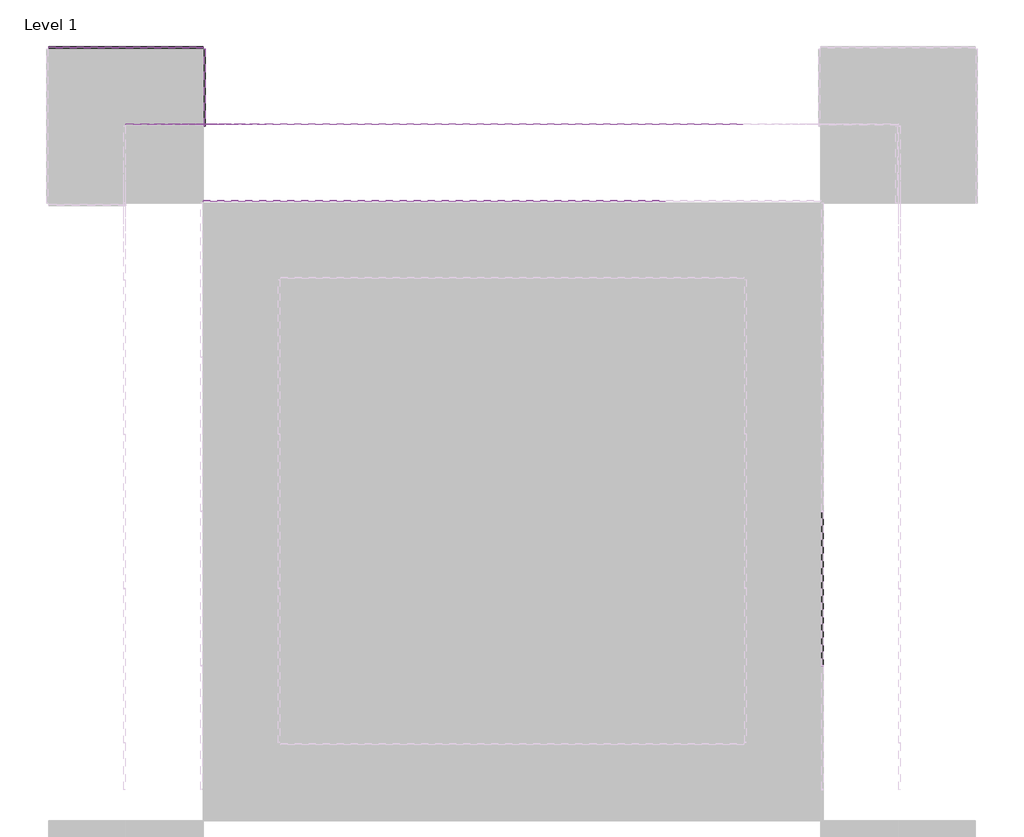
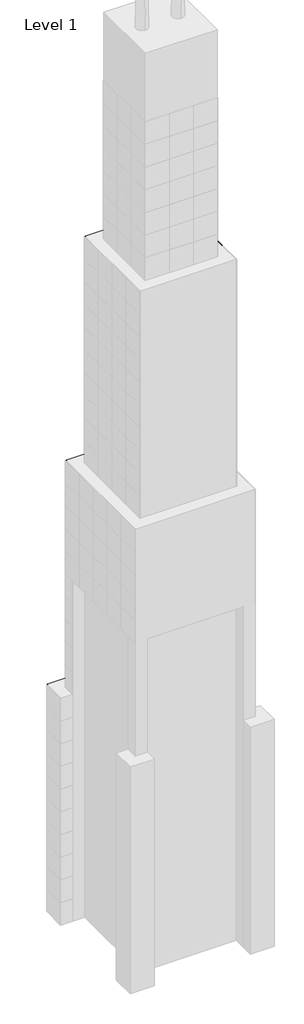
# One storey, part 13 of 15: 138 plates.
"""IFC4 building model written with IfcOpenShell, lengths in millimetres."""

from ifc_helpers import new_model, si_unit, origin, place, context, project, spatial, transform, mapped, element, save
from components import system_panel_glazed_9c75bc08, system_panel_glazed_0a0842ec, system_panel_glazed_aa64d645, system_panel_glazed_b248394d

model = new_model("IFC4")

# Units and contexts
model_context = context("Model", 3, world=origin())
ifc_project = project(units=[si_unit("LENGTHUNIT", "METRE", prefix="MILLI")], contexts=[model_context])

# Site, building, storey
site = spatial("IfcSite", under=ifc_project)
building = spatial("IfcBuilding", under=site)
storey = spatial("IfcBuildingStorey", under=building, Name="Level 1", Elevation=0.0)

# Plates
placement = place(None, origin())
system_panel_glazed_shape = system_panel_glazed_9c75bc08(model_context)
element("IfcPlate", 1, ObjectType="System Panel : Glazed", at=placement, inside=storey, context=model_context, shape_type="MappedRepresentation", body=[
    mapped(system_panel_glazed_shape, transform((38118.2903978, 10637.0904402, 0.0), x_axis=(0.0, 1.0, 0.0), y_axis=(-1.0, 0.0, 0.0), z_axis=(0.0, 0.0, 1.0))),
])
element("IfcPlate", 2, ObjectType="System Panel : Glazed", at=placement, inside=storey, context=model_context, shape_type="MappedRepresentation", body=[
    mapped(system_panel_glazed_shape, transform((38118.2903978, 10637.0904402, 3048.0), x_axis=(0.0, 1.0, 0.0), y_axis=(-1.0, 0.0, 0.0), z_axis=(0.0, 0.0, 1.0))),
])
element("IfcPlate", 3, ObjectType="System Panel : Glazed", at=placement, inside=storey, context=model_context, shape_type="MappedRepresentation", body=[
    mapped(system_panel_glazed_shape, transform((38118.2903978, 10637.0904402, 6096.0), x_axis=(0.0, 1.0, 0.0), y_axis=(-1.0, 0.0, 0.0), z_axis=(0.0, 0.0, 1.0))),
])
element("IfcPlate", 4, ObjectType="System Panel : Glazed", at=placement, inside=storey, context=model_context, shape_type="MappedRepresentation", body=[
    mapped(system_panel_glazed_shape, transform((38118.2903978, 10637.0904402, 9144.0), x_axis=(0.0, 1.0, 0.0), y_axis=(-1.0, 0.0, 0.0), z_axis=(0.0, 0.0, 1.0))),
])
element("IfcPlate", 5, ObjectType="System Panel : Glazed", at=placement, inside=storey, context=model_context, shape_type="MappedRepresentation", body=[
    mapped(system_panel_glazed_shape, transform((38118.2903978, 10637.0904402, 12192.0), x_axis=(0.0, 1.0, 0.0), y_axis=(-1.0, 0.0, 0.0), z_axis=(0.0, 0.0, 1.0))),
])
element("IfcPlate", 6, ObjectType="System Panel : Glazed", at=placement, inside=storey, context=model_context, shape_type="MappedRepresentation", body=[
    mapped(system_panel_glazed_shape, transform((38118.2903978, 10637.0904402, 15240.0), x_axis=(0.0, 1.0, 0.0), y_axis=(-1.0, 0.0, 0.0), z_axis=(0.0, 0.0, 1.0))),
])
element("IfcPlate", 7, ObjectType="System Panel : Glazed", at=placement, inside=storey, context=model_context, shape_type="MappedRepresentation", body=[
    mapped(system_panel_glazed_shape, transform((38118.2903978, 10637.0904402, 18288.0), x_axis=(0.0, 1.0, 0.0), y_axis=(-1.0, 0.0, 0.0), z_axis=(0.0, 0.0, 1.0))),
])
element("IfcPlate", 8, ObjectType="System Panel : Glazed", at=placement, inside=storey, context=model_context, shape_type="MappedRepresentation", body=[
    mapped(system_panel_glazed_shape, transform((38118.2903978, 10637.0904402, 21336.0), x_axis=(0.0, 1.0, 0.0), y_axis=(-1.0, 0.0, 0.0), z_axis=(0.0, 0.0, 1.0))),
])
element("IfcPlate", 9, ObjectType="System Panel : Glazed", at=placement, inside=storey, context=model_context, shape_type="MappedRepresentation", body=[
    mapped(system_panel_glazed_shape, transform((38118.2903978, 10637.0904402, 24384.0), x_axis=(0.0, 1.0, 0.0), y_axis=(-1.0, 0.0, 0.0), z_axis=(0.0, 0.0, 1.0))),
])
element("IfcPlate", 10, ObjectType="System Panel : Glazed", at=placement, inside=storey, context=model_context, shape_type="MappedRepresentation", body=[
    mapped(system_panel_glazed_shape, transform((38118.2903978, 10637.0904402, 27432.0), x_axis=(0.0, 1.0, 0.0), y_axis=(-1.0, 0.0, 0.0), z_axis=(0.0, 0.0, 1.0))),
])
system_panel_glazed_2_shape = system_panel_glazed_0a0842ec(model_context)
element("IfcPlate", 11, ObjectType="System Panel : Glazed", at=placement, inside=storey, context=model_context, shape_type="MappedRepresentation", body=[
    mapped(system_panel_glazed_2_shape, transform((38118.2903978, 9875.0904402, 45720.0), x_axis=(-1.0, 0.0, 0.0), y_axis=(0.0, -1.0, 0.0), z_axis=(0.0, 0.0, 1.0))),
])
element("IfcPlate", 12, ObjectType="System Panel : Glazed", at=placement, inside=storey, context=model_context, shape_type="MappedRepresentation", body=[
    mapped(system_panel_glazed_2_shape, transform((38118.2903978, 9875.0904402, 45720.0), x_axis=(-1.0, 0.0, 0.0), y_axis=(0.0, -1.0, 0.0), z_axis=(0.0, 0.0, 1.0))),
])
element("IfcPlate", 13, ObjectType="System Panel : Glazed", at=placement, inside=storey, context=model_context, shape_type="MappedRepresentation", body=[
    mapped(system_panel_glazed_2_shape, transform((38118.2903978, 9875.0904402, 45720.0), x_axis=(-1.0, 0.0, 0.0), y_axis=(0.0, -1.0, 0.0), z_axis=(0.0, 0.0, 1.0))),
])
system_panel_glazed_3_shape = system_panel_glazed_aa64d645(model_context)
element("IfcPlate", 14, ObjectType="System Panel : Glazed", at=placement, inside=storey, context=model_context, shape_type="MappedRepresentation", body=[
    mapped(system_panel_glazed_3_shape, transform((47262.2903978, 9875.0904402, 45720.0), x_axis=(-1.0, 0.0, 0.0), y_axis=(0.0, -1.0, 0.0), z_axis=(0.0, 0.0, 1.0))),
])
element("IfcPlate", 15, ObjectType="System Panel : Glazed", at=placement, inside=storey, context=model_context, shape_type="MappedRepresentation", body=[
    mapped(system_panel_glazed_3_shape, transform((44214.2903978, 9875.0904402, 45720.0), x_axis=(-1.0, 0.0, 0.0), y_axis=(0.0, -1.0, 0.0), z_axis=(0.0, 0.0, 1.0))),
])
element("IfcPlate", 16, ObjectType="System Panel : Glazed", at=placement, inside=storey, context=model_context, shape_type="MappedRepresentation", body=[
    mapped(system_panel_glazed_3_shape, transform((41166.2903978, 9875.0904402, 45720.0), x_axis=(-1.0, 0.0, 0.0), y_axis=(0.0, -1.0, 0.0), z_axis=(0.0, 0.0, 1.0))),
])
element("IfcPlate", 17, ObjectType="System Panel : Glazed", at=placement, inside=storey, context=model_context, shape_type="MappedRepresentation", body=[
    mapped(system_panel_glazed_3_shape, transform((47262.2903978, 9875.0904402, 48768.0), x_axis=(-1.0, 0.0, 0.0), y_axis=(0.0, -1.0, 0.0), z_axis=(0.0, 0.0, 1.0))),
])
element("IfcPlate", 18, ObjectType="System Panel : Glazed", at=placement, inside=storey, context=model_context, shape_type="MappedRepresentation", body=[
    mapped(system_panel_glazed_3_shape, transform((44214.2903978, 9875.0904402, 48768.0), x_axis=(-1.0, 0.0, 0.0), y_axis=(0.0, -1.0, 0.0), z_axis=(0.0, 0.0, 1.0))),
])
element("IfcPlate", 19, ObjectType="System Panel : Glazed", at=placement, inside=storey, context=model_context, shape_type="MappedRepresentation", body=[
    mapped(system_panel_glazed_3_shape, transform((41166.2903978, 9875.0904402, 48768.0), x_axis=(-1.0, 0.0, 0.0), y_axis=(0.0, -1.0, 0.0), z_axis=(0.0, 0.0, 1.0))),
])
element("IfcPlate", 20, ObjectType="System Panel : Glazed", at=placement, inside=storey, context=model_context, shape_type="MappedRepresentation", body=[
    mapped(system_panel_glazed_3_shape, transform((38118.2903978, 9875.0904402, 48768.0), x_axis=(-1.0, 0.0, 0.0), y_axis=(0.0, -1.0, 0.0), z_axis=(0.0, 0.0, 1.0))),
])
element("IfcPlate", 21, ObjectType="System Panel : Glazed", at=placement, inside=storey, context=model_context, shape_type="MappedRepresentation", body=[
    mapped(system_panel_glazed_3_shape, transform((47262.2903978, 9875.0904402, 51816.0), x_axis=(-1.0, 0.0, 0.0), y_axis=(0.0, -1.0, 0.0), z_axis=(0.0, 0.0, 1.0))),
])
element("IfcPlate", 22, ObjectType="System Panel : Glazed", at=placement, inside=storey, context=model_context, shape_type="MappedRepresentation", body=[
    mapped(system_panel_glazed_3_shape, transform((44214.2903978, 9875.0904402, 51816.0), x_axis=(-1.0, 0.0, 0.0), y_axis=(0.0, -1.0, 0.0), z_axis=(0.0, 0.0, 1.0))),
])
element("IfcPlate", 23, ObjectType="System Panel : Glazed", at=placement, inside=storey, context=model_context, shape_type="MappedRepresentation", body=[
    mapped(system_panel_glazed_3_shape, transform((41166.2903978, 9875.0904402, 51816.0), x_axis=(-1.0, 0.0, 0.0), y_axis=(0.0, -1.0, 0.0), z_axis=(0.0, 0.0, 1.0))),
])
element("IfcPlate", 24, ObjectType="System Panel : Glazed", at=placement, inside=storey, context=model_context, shape_type="MappedRepresentation", body=[
    mapped(system_panel_glazed_3_shape, transform((38118.2903978, 9875.0904402, 51816.0), x_axis=(-1.0, 0.0, 0.0), y_axis=(0.0, -1.0, 0.0), z_axis=(0.0, 0.0, 1.0))),
])
element("IfcPlate", 25, ObjectType="System Panel : Glazed", at=placement, inside=storey, context=model_context, shape_type="MappedRepresentation", body=[
    mapped(system_panel_glazed_3_shape, transform((47262.2903978, 9875.0904402, 54864.0), x_axis=(-1.0, 0.0, 0.0), y_axis=(0.0, -1.0, 0.0), z_axis=(0.0, 0.0, 1.0))),
])
element("IfcPlate", 26, ObjectType="System Panel : Glazed", at=placement, inside=storey, context=model_context, shape_type="MappedRepresentation", body=[
    mapped(system_panel_glazed_3_shape, transform((44214.2903978, 9875.0904402, 54864.0), x_axis=(-1.0, 0.0, 0.0), y_axis=(0.0, -1.0, 0.0), z_axis=(0.0, 0.0, 1.0))),
])
element("IfcPlate", 27, ObjectType="System Panel : Glazed", at=placement, inside=storey, context=model_context, shape_type="MappedRepresentation", body=[
    mapped(system_panel_glazed_3_shape, transform((41166.2903978, 9875.0904402, 54864.0), x_axis=(-1.0, 0.0, 0.0), y_axis=(0.0, -1.0, 0.0), z_axis=(0.0, 0.0, 1.0))),
])
element("IfcPlate", 28, ObjectType="System Panel : Glazed", at=placement, inside=storey, context=model_context, shape_type="MappedRepresentation", body=[
    mapped(system_panel_glazed_3_shape, transform((38118.2903978, 9875.0904402, 54864.0), x_axis=(-1.0, 0.0, 0.0), y_axis=(0.0, -1.0, 0.0), z_axis=(0.0, 0.0, 1.0))),
])
element("IfcPlate", 29, ObjectType="System Panel : Glazed", at=placement, inside=storey, context=model_context, shape_type="MappedRepresentation", body=[
    mapped(system_panel_glazed_3_shape, transform((47262.2903978, 9875.0904402, 57912.0), x_axis=(-1.0, 0.0, 0.0), y_axis=(0.0, -1.0, 0.0), z_axis=(0.0, 0.0, 1.0))),
])
element("IfcPlate", 30, ObjectType="System Panel : Glazed", at=placement, inside=storey, context=model_context, shape_type="MappedRepresentation", body=[
    mapped(system_panel_glazed_3_shape, transform((44214.2903978, 9875.0904402, 57912.0), x_axis=(-1.0, 0.0, 0.0), y_axis=(0.0, -1.0, 0.0), z_axis=(0.0, 0.0, 1.0))),
])
element("IfcPlate", 31, ObjectType="System Panel : Glazed", at=placement, inside=storey, context=model_context, shape_type="MappedRepresentation", body=[
    mapped(system_panel_glazed_3_shape, transform((41166.2903978, 9875.0904402, 57912.0), x_axis=(-1.0, 0.0, 0.0), y_axis=(0.0, -1.0, 0.0), z_axis=(0.0, 0.0, 1.0))),
])
element("IfcPlate", 32, ObjectType="System Panel : Glazed", at=placement, inside=storey, context=model_context, shape_type="MappedRepresentation", body=[
    mapped(system_panel_glazed_3_shape, transform((38118.2903978, 9875.0904402, 57912.0), x_axis=(-1.0, 0.0, 0.0), y_axis=(0.0, -1.0, 0.0), z_axis=(0.0, 0.0, 1.0))),
])
element("IfcPlate", 33, ObjectType="System Panel : Glazed", at=placement, inside=storey, context=model_context, shape_type="MappedRepresentation", body=[
    mapped(system_panel_glazed_3_shape, transform((50310.2903978, 731.0904402, 60960.0), x_axis=(0.0, 1.0, 0.0), y_axis=(-1.0, 0.0, 0.0), z_axis=(0.0, 0.0, 1.0))),
])
element("IfcPlate", 34, ObjectType="System Panel : Glazed", at=placement, inside=storey, context=model_context, shape_type="MappedRepresentation", body=[
    mapped(system_panel_glazed_3_shape, transform((50310.2903978, 731.0904402, 64008.0), x_axis=(0.0, 1.0, 0.0), y_axis=(-1.0, 0.0, 0.0), z_axis=(0.0, 0.0, 1.0))),
])
element("IfcPlate", 35, ObjectType="System Panel : Glazed", at=placement, inside=storey, context=model_context, shape_type="MappedRepresentation", body=[
    mapped(system_panel_glazed_3_shape, transform((50310.2903978, 731.0904402, 67056.0), x_axis=(0.0, 1.0, 0.0), y_axis=(-1.0, 0.0, 0.0), z_axis=(0.0, 0.0, 1.0))),
])
element("IfcPlate", 36, ObjectType="System Panel : Glazed", at=placement, inside=storey, context=model_context, shape_type="MappedRepresentation", body=[
    mapped(system_panel_glazed_3_shape, transform((50310.2903978, 731.0904402, 70104.0), x_axis=(0.0, 1.0, 0.0), y_axis=(-1.0, 0.0, 0.0), z_axis=(0.0, 0.0, 1.0))),
])
element("IfcPlate", 37, ObjectType="System Panel : Glazed", at=placement, inside=storey, context=model_context, shape_type="MappedRepresentation", body=[
    mapped(system_panel_glazed_3_shape, transform((50310.2903978, 731.0904402, 73152.0), x_axis=(0.0, 1.0, 0.0), y_axis=(-1.0, 0.0, 0.0), z_axis=(0.0, 0.0, 1.0))),
])
element("IfcPlate", 38, ObjectType="System Panel : Glazed", at=placement, inside=storey, context=model_context, shape_type="MappedRepresentation", body=[
    mapped(system_panel_glazed_3_shape, transform((50310.2903978, 731.0904402, 76200.0), x_axis=(0.0, 1.0, 0.0), y_axis=(-1.0, 0.0, 0.0), z_axis=(0.0, 0.0, 1.0))),
])
element("IfcPlate", 39, ObjectType="System Panel : Glazed", at=placement, inside=storey, context=model_context, shape_type="MappedRepresentation", body=[
    mapped(system_panel_glazed_3_shape, transform((50310.2903978, 731.0904402, 79248.0), x_axis=(0.0, 1.0, 0.0), y_axis=(-1.0, 0.0, 0.0), z_axis=(0.0, 0.0, 1.0))),
])
element("IfcPlate", 40, ObjectType="System Panel : Glazed", at=placement, inside=storey, context=model_context, shape_type="MappedRepresentation", body=[
    mapped(system_panel_glazed_3_shape, transform((50310.2903978, 731.0904402, 82296.0), x_axis=(0.0, 1.0, 0.0), y_axis=(-1.0, 0.0, 0.0), z_axis=(0.0, 0.0, 1.0))),
])
element("IfcPlate", 41, ObjectType="System Panel : Glazed", at=placement, inside=storey, context=model_context, shape_type="MappedRepresentation", body=[
    mapped(system_panel_glazed_3_shape, transform((50310.2903978, 731.0904402, 85344.0), x_axis=(0.0, 1.0, 0.0), y_axis=(-1.0, 0.0, 0.0), z_axis=(0.0, 0.0, 1.0))),
])
element("IfcPlate", 42, ObjectType="System Panel : Glazed", at=placement, inside=storey, context=model_context, shape_type="MappedRepresentation", body=[
    mapped(system_panel_glazed_3_shape, transform((50310.2903978, 731.0904402, 88392.0), x_axis=(0.0, 1.0, 0.0), y_axis=(-1.0, 0.0, 0.0), z_axis=(0.0, 0.0, 1.0))),
])
element("IfcPlate", 43, ObjectType="System Panel : Glazed", at=placement, inside=storey, context=model_context, shape_type="MappedRepresentation", body=[
    mapped(system_panel_glazed_3_shape, transform((45738.2903978, 8351.0904402, 60960.0), x_axis=(-1.0, 0.0, 0.0), y_axis=(0.0, -1.0, 0.0), z_axis=(0.0, 0.0, 1.0))),
])
element("IfcPlate", 44, ObjectType="System Panel : Glazed", at=placement, inside=storey, context=model_context, shape_type="MappedRepresentation", body=[
    mapped(system_panel_glazed_3_shape, transform((42690.2903978, 8351.0904402, 60960.0), x_axis=(-1.0, 0.0, 0.0), y_axis=(0.0, -1.0, 0.0), z_axis=(0.0, 0.0, 1.0))),
])
element("IfcPlate", 45, ObjectType="System Panel : Glazed", at=placement, inside=storey, context=model_context, shape_type="MappedRepresentation", body=[
    mapped(system_panel_glazed_3_shape, transform((45738.2903978, 8351.0904402, 64008.0), x_axis=(-1.0, 0.0, 0.0), y_axis=(0.0, -1.0, 0.0), z_axis=(0.0, 0.0, 1.0))),
])
element("IfcPlate", 46, ObjectType="System Panel : Glazed", at=placement, inside=storey, context=model_context, shape_type="MappedRepresentation", body=[
    mapped(system_panel_glazed_3_shape, transform((42690.2903978, 8351.0904402, 64008.0), x_axis=(-1.0, 0.0, 0.0), y_axis=(0.0, -1.0, 0.0), z_axis=(0.0, 0.0, 1.0))),
])
element("IfcPlate", 47, ObjectType="System Panel : Glazed", at=placement, inside=storey, context=model_context, shape_type="MappedRepresentation", body=[
    mapped(system_panel_glazed_3_shape, transform((45738.2903978, 8351.0904402, 67056.0), x_axis=(-1.0, 0.0, 0.0), y_axis=(0.0, -1.0, 0.0), z_axis=(0.0, 0.0, 1.0))),
])
element("IfcPlate", 48, ObjectType="System Panel : Glazed", at=placement, inside=storey, context=model_context, shape_type="MappedRepresentation", body=[
    mapped(system_panel_glazed_3_shape, transform((42690.2903978, 8351.0904402, 67056.0), x_axis=(-1.0, 0.0, 0.0), y_axis=(0.0, -1.0, 0.0), z_axis=(0.0, 0.0, 1.0))),
])
element("IfcPlate", 49, ObjectType="System Panel : Glazed", at=placement, inside=storey, context=model_context, shape_type="MappedRepresentation", body=[
    mapped(system_panel_glazed_3_shape, transform((45738.2903978, 8351.0904402, 70104.0), x_axis=(-1.0, 0.0, 0.0), y_axis=(0.0, -1.0, 0.0), z_axis=(0.0, 0.0, 1.0))),
])
element("IfcPlate", 50, ObjectType="System Panel : Glazed", at=placement, inside=storey, context=model_context, shape_type="MappedRepresentation", body=[
    mapped(system_panel_glazed_3_shape, transform((42690.2903978, 8351.0904402, 70104.0), x_axis=(-1.0, 0.0, 0.0), y_axis=(0.0, -1.0, 0.0), z_axis=(0.0, 0.0, 1.0))),
])
element("IfcPlate", 51, ObjectType="System Panel : Glazed", at=placement, inside=storey, context=model_context, shape_type="MappedRepresentation", body=[
    mapped(system_panel_glazed_3_shape, transform((45738.2903978, 8351.0904402, 73152.0), x_axis=(-1.0, 0.0, 0.0), y_axis=(0.0, -1.0, 0.0), z_axis=(0.0, 0.0, 1.0))),
])
element("IfcPlate", 52, ObjectType="System Panel : Glazed", at=placement, inside=storey, context=model_context, shape_type="MappedRepresentation", body=[
    mapped(system_panel_glazed_3_shape, transform((42690.2903978, 8351.0904402, 73152.0), x_axis=(-1.0, 0.0, 0.0), y_axis=(0.0, -1.0, 0.0), z_axis=(0.0, 0.0, 1.0))),
])
element("IfcPlate", 53, ObjectType="System Panel : Glazed", at=placement, inside=storey, context=model_context, shape_type="MappedRepresentation", body=[
    mapped(system_panel_glazed_3_shape, transform((45738.2903978, 8351.0904402, 76200.0), x_axis=(-1.0, 0.0, 0.0), y_axis=(0.0, -1.0, 0.0), z_axis=(0.0, 0.0, 1.0))),
])
element("IfcPlate", 54, ObjectType="System Panel : Glazed", at=placement, inside=storey, context=model_context, shape_type="MappedRepresentation", body=[
    mapped(system_panel_glazed_3_shape, transform((42690.2903978, 8351.0904402, 76200.0), x_axis=(-1.0, 0.0, 0.0), y_axis=(0.0, -1.0, 0.0), z_axis=(0.0, 0.0, 1.0))),
])
element("IfcPlate", 55, ObjectType="System Panel : Glazed", at=placement, inside=storey, context=model_context, shape_type="MappedRepresentation", body=[
    mapped(system_panel_glazed_3_shape, transform((45738.2903978, 8351.0904402, 79248.0), x_axis=(-1.0, 0.0, 0.0), y_axis=(0.0, -1.0, 0.0), z_axis=(0.0, 0.0, 1.0))),
])
element("IfcPlate", 56, ObjectType="System Panel : Glazed", at=placement, inside=storey, context=model_context, shape_type="MappedRepresentation", body=[
    mapped(system_panel_glazed_3_shape, transform((42690.2903978, 8351.0904402, 79248.0), x_axis=(-1.0, 0.0, 0.0), y_axis=(0.0, -1.0, 0.0), z_axis=(0.0, 0.0, 1.0))),
])
element("IfcPlate", 57, ObjectType="System Panel : Glazed", at=placement, inside=storey, context=model_context, shape_type="MappedRepresentation", body=[
    mapped(system_panel_glazed_3_shape, transform((39642.2903978, 8351.0904402, 79248.0), x_axis=(-1.0, 0.0, 0.0), y_axis=(0.0, -1.0, 0.0), z_axis=(0.0, 0.0, 1.0))),
])
element("IfcPlate", 58, ObjectType="System Panel : Glazed", at=placement, inside=storey, context=model_context, shape_type="MappedRepresentation", body=[
    mapped(system_panel_glazed_3_shape, transform((45738.2903978, 8351.0904402, 82296.0), x_axis=(-1.0, 0.0, 0.0), y_axis=(0.0, -1.0, 0.0), z_axis=(0.0, 0.0, 1.0))),
])
element("IfcPlate", 59, ObjectType="System Panel : Glazed", at=placement, inside=storey, context=model_context, shape_type="MappedRepresentation", body=[
    mapped(system_panel_glazed_3_shape, transform((42690.2903978, 8351.0904402, 82296.0), x_axis=(-1.0, 0.0, 0.0), y_axis=(0.0, -1.0, 0.0), z_axis=(0.0, 0.0, 1.0))),
])
element("IfcPlate", 60, ObjectType="System Panel : Glazed", at=placement, inside=storey, context=model_context, shape_type="MappedRepresentation", body=[
    mapped(system_panel_glazed_3_shape, transform((39642.2903978, 8351.0904402, 82296.0), x_axis=(-1.0, 0.0, 0.0), y_axis=(0.0, -1.0, 0.0), z_axis=(0.0, 0.0, 1.0))),
])
element("IfcPlate", 61, ObjectType="System Panel : Glazed", at=placement, inside=storey, context=model_context, shape_type="MappedRepresentation", body=[
    mapped(system_panel_glazed_3_shape, transform((45738.2903978, 8351.0904402, 85344.0), x_axis=(-1.0, 0.0, 0.0), y_axis=(0.0, -1.0, 0.0), z_axis=(0.0, 0.0, 1.0))),
])
element("IfcPlate", 62, ObjectType="System Panel : Glazed", at=placement, inside=storey, context=model_context, shape_type="MappedRepresentation", body=[
    mapped(system_panel_glazed_3_shape, transform((42690.2903978, 8351.0904402, 85344.0), x_axis=(-1.0, 0.0, 0.0), y_axis=(0.0, -1.0, 0.0), z_axis=(0.0, 0.0, 1.0))),
])
element("IfcPlate", 63, ObjectType="System Panel : Glazed", at=placement, inside=storey, context=model_context, shape_type="MappedRepresentation", body=[
    mapped(system_panel_glazed_3_shape, transform((39642.2903978, 8351.0904402, 85344.0), x_axis=(-1.0, 0.0, 0.0), y_axis=(0.0, -1.0, 0.0), z_axis=(0.0, 0.0, 1.0))),
])
element("IfcPlate", 64, ObjectType="System Panel : Glazed", at=placement, inside=storey, context=model_context, shape_type="MappedRepresentation", body=[
    mapped(system_panel_glazed_3_shape, transform((45738.2903978, 8351.0904402, 88392.0), x_axis=(-1.0, 0.0, 0.0), y_axis=(0.0, -1.0, 0.0), z_axis=(0.0, 0.0, 1.0))),
])
element("IfcPlate", 65, ObjectType="System Panel : Glazed", at=placement, inside=storey, context=model_context, shape_type="MappedRepresentation", body=[
    mapped(system_panel_glazed_3_shape, transform((42690.2903978, 8351.0904402, 88392.0), x_axis=(-1.0, 0.0, 0.0), y_axis=(0.0, -1.0, 0.0), z_axis=(0.0, 0.0, 1.0))),
])
element("IfcPlate", 66, ObjectType="System Panel : Glazed", at=placement, inside=storey, context=model_context, shape_type="MappedRepresentation", body=[
    mapped(system_panel_glazed_3_shape, transform((39642.2903978, 8351.0904402, 88392.0), x_axis=(-1.0, 0.0, 0.0), y_axis=(0.0, -1.0, 0.0), z_axis=(0.0, 0.0, 1.0))),
])
element("IfcPlate", 67, ObjectType="System Panel : Glazed", at=placement, inside=storey, context=model_context, shape_type="MappedRepresentation", body=[
    mapped(system_panel_glazed_3_shape, transform((47262.2903978, 9875.0904402, 45720.0), x_axis=(-1.0, 0.0, 0.0), y_axis=(0.0, -1.0, 0.0), z_axis=(0.0, 0.0, 1.0))),
])
element("IfcPlate", 68, ObjectType="System Panel : Glazed", at=placement, inside=storey, context=model_context, shape_type="MappedRepresentation", body=[
    mapped(system_panel_glazed_3_shape, transform((44214.2903978, 9875.0904402, 45720.0), x_axis=(-1.0, 0.0, 0.0), y_axis=(0.0, -1.0, 0.0), z_axis=(0.0, 0.0, 1.0))),
])
element("IfcPlate", 69, ObjectType="System Panel : Glazed", at=placement, inside=storey, context=model_context, shape_type="MappedRepresentation", body=[
    mapped(system_panel_glazed_3_shape, transform((41166.2903978, 9875.0904402, 45720.0), x_axis=(-1.0, 0.0, 0.0), y_axis=(0.0, -1.0, 0.0), z_axis=(0.0, 0.0, 1.0))),
])
element("IfcPlate", 70, ObjectType="System Panel : Glazed", at=placement, inside=storey, context=model_context, shape_type="MappedRepresentation", body=[
    mapped(system_panel_glazed_3_shape, transform((47262.2903978, 9875.0904402, 48768.0), x_axis=(-1.0, 0.0, 0.0), y_axis=(0.0, -1.0, 0.0), z_axis=(0.0, 0.0, 1.0))),
])
element("IfcPlate", 71, ObjectType="System Panel : Glazed", at=placement, inside=storey, context=model_context, shape_type="MappedRepresentation", body=[
    mapped(system_panel_glazed_3_shape, transform((44214.2903978, 9875.0904402, 48768.0), x_axis=(-1.0, 0.0, 0.0), y_axis=(0.0, -1.0, 0.0), z_axis=(0.0, 0.0, 1.0))),
])
element("IfcPlate", 72, ObjectType="System Panel : Glazed", at=placement, inside=storey, context=model_context, shape_type="MappedRepresentation", body=[
    mapped(system_panel_glazed_3_shape, transform((41166.2903978, 9875.0904402, 48768.0), x_axis=(-1.0, 0.0, 0.0), y_axis=(0.0, -1.0, 0.0), z_axis=(0.0, 0.0, 1.0))),
])
element("IfcPlate", 73, ObjectType="System Panel : Glazed", at=placement, inside=storey, context=model_context, shape_type="MappedRepresentation", body=[
    mapped(system_panel_glazed_3_shape, transform((38118.2903978, 9875.0904402, 48768.0), x_axis=(-1.0, 0.0, 0.0), y_axis=(0.0, -1.0, 0.0), z_axis=(0.0, 0.0, 1.0))),
])
element("IfcPlate", 74, ObjectType="System Panel : Glazed", at=placement, inside=storey, context=model_context, shape_type="MappedRepresentation", body=[
    mapped(system_panel_glazed_3_shape, transform((47262.2903978, 9875.0904402, 51816.0), x_axis=(-1.0, 0.0, 0.0), y_axis=(0.0, -1.0, 0.0), z_axis=(0.0, 0.0, 1.0))),
])
element("IfcPlate", 75, ObjectType="System Panel : Glazed", at=placement, inside=storey, context=model_context, shape_type="MappedRepresentation", body=[
    mapped(system_panel_glazed_3_shape, transform((44214.2903978, 9875.0904402, 51816.0), x_axis=(-1.0, 0.0, 0.0), y_axis=(0.0, -1.0, 0.0), z_axis=(0.0, 0.0, 1.0))),
])
element("IfcPlate", 76, ObjectType="System Panel : Glazed", at=placement, inside=storey, context=model_context, shape_type="MappedRepresentation", body=[
    mapped(system_panel_glazed_3_shape, transform((41166.2903978, 9875.0904402, 51816.0), x_axis=(-1.0, 0.0, 0.0), y_axis=(0.0, -1.0, 0.0), z_axis=(0.0, 0.0, 1.0))),
])
element("IfcPlate", 77, ObjectType="System Panel : Glazed", at=placement, inside=storey, context=model_context, shape_type="MappedRepresentation", body=[
    mapped(system_panel_glazed_3_shape, transform((38118.2903978, 9875.0904402, 51816.0), x_axis=(-1.0, 0.0, 0.0), y_axis=(0.0, -1.0, 0.0), z_axis=(0.0, 0.0, 1.0))),
])
element("IfcPlate", 78, ObjectType="System Panel : Glazed", at=placement, inside=storey, context=model_context, shape_type="MappedRepresentation", body=[
    mapped(system_panel_glazed_3_shape, transform((47262.2903978, 9875.0904402, 54864.0), x_axis=(-1.0, 0.0, 0.0), y_axis=(0.0, -1.0, 0.0), z_axis=(0.0, 0.0, 1.0))),
])
element("IfcPlate", 79, ObjectType="System Panel : Glazed", at=placement, inside=storey, context=model_context, shape_type="MappedRepresentation", body=[
    mapped(system_panel_glazed_3_shape, transform((44214.2903978, 9875.0904402, 54864.0), x_axis=(-1.0, 0.0, 0.0), y_axis=(0.0, -1.0, 0.0), z_axis=(0.0, 0.0, 1.0))),
])
element("IfcPlate", 80, ObjectType="System Panel : Glazed", at=placement, inside=storey, context=model_context, shape_type="MappedRepresentation", body=[
    mapped(system_panel_glazed_3_shape, transform((41166.2903978, 9875.0904402, 54864.0), x_axis=(-1.0, 0.0, 0.0), y_axis=(0.0, -1.0, 0.0), z_axis=(0.0, 0.0, 1.0))),
])
element("IfcPlate", 81, ObjectType="System Panel : Glazed", at=placement, inside=storey, context=model_context, shape_type="MappedRepresentation", body=[
    mapped(system_panel_glazed_3_shape, transform((38118.2903978, 9875.0904402, 54864.0), x_axis=(-1.0, 0.0, 0.0), y_axis=(0.0, -1.0, 0.0), z_axis=(0.0, 0.0, 1.0))),
])
element("IfcPlate", 82, ObjectType="System Panel : Glazed", at=placement, inside=storey, context=model_context, shape_type="MappedRepresentation", body=[
    mapped(system_panel_glazed_3_shape, transform((47262.2903978, 9875.0904402, 57912.0), x_axis=(-1.0, 0.0, 0.0), y_axis=(0.0, -1.0, 0.0), z_axis=(0.0, 0.0, 1.0))),
])
element("IfcPlate", 83, ObjectType="System Panel : Glazed", at=placement, inside=storey, context=model_context, shape_type="MappedRepresentation", body=[
    mapped(system_panel_glazed_3_shape, transform((44214.2903978, 9875.0904402, 57912.0), x_axis=(-1.0, 0.0, 0.0), y_axis=(0.0, -1.0, 0.0), z_axis=(0.0, 0.0, 1.0))),
])
element("IfcPlate", 84, ObjectType="System Panel : Glazed", at=placement, inside=storey, context=model_context, shape_type="MappedRepresentation", body=[
    mapped(system_panel_glazed_3_shape, transform((41166.2903978, 9875.0904402, 57912.0), x_axis=(-1.0, 0.0, 0.0), y_axis=(0.0, -1.0, 0.0), z_axis=(0.0, 0.0, 1.0))),
])
element("IfcPlate", 85, ObjectType="System Panel : Glazed", at=placement, inside=storey, context=model_context, shape_type="MappedRepresentation", body=[
    mapped(system_panel_glazed_3_shape, transform((38118.2903978, 9875.0904402, 57912.0), x_axis=(-1.0, 0.0, 0.0), y_axis=(0.0, -1.0, 0.0), z_axis=(0.0, 0.0, 1.0))),
])
element("IfcPlate", 86, ObjectType="System Panel : Glazed", at=placement, inside=storey, context=model_context, shape_type="MappedRepresentation", body=[
    mapped(system_panel_glazed_3_shape, transform((47262.2903978, 9875.0904402, 45720.0), x_axis=(-1.0, 0.0, 0.0), y_axis=(0.0, -1.0, 0.0), z_axis=(0.0, 0.0, 1.0))),
])
element("IfcPlate", 87, ObjectType="System Panel : Glazed", at=placement, inside=storey, context=model_context, shape_type="MappedRepresentation", body=[
    mapped(system_panel_glazed_3_shape, transform((44214.2903978, 9875.0904402, 45720.0), x_axis=(-1.0, 0.0, 0.0), y_axis=(0.0, -1.0, 0.0), z_axis=(0.0, 0.0, 1.0))),
])
element("IfcPlate", 88, ObjectType="System Panel : Glazed", at=placement, inside=storey, context=model_context, shape_type="MappedRepresentation", body=[
    mapped(system_panel_glazed_3_shape, transform((41166.2903978, 9875.0904402, 45720.0), x_axis=(-1.0, 0.0, 0.0), y_axis=(0.0, -1.0, 0.0), z_axis=(0.0, 0.0, 1.0))),
])
element("IfcPlate", 89, ObjectType="System Panel : Glazed", at=placement, inside=storey, context=model_context, shape_type="MappedRepresentation", body=[
    mapped(system_panel_glazed_3_shape, transform((47262.2903978, 9875.0904402, 48768.0), x_axis=(-1.0, 0.0, 0.0), y_axis=(0.0, -1.0, 0.0), z_axis=(0.0, 0.0, 1.0))),
])
element("IfcPlate", 90, ObjectType="System Panel : Glazed", at=placement, inside=storey, context=model_context, shape_type="MappedRepresentation", body=[
    mapped(system_panel_glazed_3_shape, transform((44214.2903978, 9875.0904402, 48768.0), x_axis=(-1.0, 0.0, 0.0), y_axis=(0.0, -1.0, 0.0), z_axis=(0.0, 0.0, 1.0))),
])
element("IfcPlate", 91, ObjectType="System Panel : Glazed", at=placement, inside=storey, context=model_context, shape_type="MappedRepresentation", body=[
    mapped(system_panel_glazed_3_shape, transform((41166.2903978, 9875.0904402, 48768.0), x_axis=(-1.0, 0.0, 0.0), y_axis=(0.0, -1.0, 0.0), z_axis=(0.0, 0.0, 1.0))),
])
element("IfcPlate", 92, ObjectType="System Panel : Glazed", at=placement, inside=storey, context=model_context, shape_type="MappedRepresentation", body=[
    mapped(system_panel_glazed_3_shape, transform((38118.2903978, 9875.0904402, 48768.0), x_axis=(-1.0, 0.0, 0.0), y_axis=(0.0, -1.0, 0.0), z_axis=(0.0, 0.0, 1.0))),
])
element("IfcPlate", 93, ObjectType="System Panel : Glazed", at=placement, inside=storey, context=model_context, shape_type="MappedRepresentation", body=[
    mapped(system_panel_glazed_3_shape, transform((47262.2903978, 9875.0904402, 51816.0), x_axis=(-1.0, 0.0, 0.0), y_axis=(0.0, -1.0, 0.0), z_axis=(0.0, 0.0, 1.0))),
])
element("IfcPlate", 94, ObjectType="System Panel : Glazed", at=placement, inside=storey, context=model_context, shape_type="MappedRepresentation", body=[
    mapped(system_panel_glazed_3_shape, transform((44214.2903978, 9875.0904402, 51816.0), x_axis=(-1.0, 0.0, 0.0), y_axis=(0.0, -1.0, 0.0), z_axis=(0.0, 0.0, 1.0))),
])
element("IfcPlate", 95, ObjectType="System Panel : Glazed", at=placement, inside=storey, context=model_context, shape_type="MappedRepresentation", body=[
    mapped(system_panel_glazed_3_shape, transform((41166.2903978, 9875.0904402, 51816.0), x_axis=(-1.0, 0.0, 0.0), y_axis=(0.0, -1.0, 0.0), z_axis=(0.0, 0.0, 1.0))),
])
element("IfcPlate", 96, ObjectType="System Panel : Glazed", at=placement, inside=storey, context=model_context, shape_type="MappedRepresentation", body=[
    mapped(system_panel_glazed_3_shape, transform((38118.2903978, 9875.0904402, 51816.0), x_axis=(-1.0, 0.0, 0.0), y_axis=(0.0, -1.0, 0.0), z_axis=(0.0, 0.0, 1.0))),
])
element("IfcPlate", 97, ObjectType="System Panel : Glazed", at=placement, inside=storey, context=model_context, shape_type="MappedRepresentation", body=[
    mapped(system_panel_glazed_3_shape, transform((47262.2903978, 9875.0904402, 54864.0), x_axis=(-1.0, 0.0, 0.0), y_axis=(0.0, -1.0, 0.0), z_axis=(0.0, 0.0, 1.0))),
])
element("IfcPlate", 98, ObjectType="System Panel : Glazed", at=placement, inside=storey, context=model_context, shape_type="MappedRepresentation", body=[
    mapped(system_panel_glazed_3_shape, transform((44214.2903978, 9875.0904402, 54864.0), x_axis=(-1.0, 0.0, 0.0), y_axis=(0.0, -1.0, 0.0), z_axis=(0.0, 0.0, 1.0))),
])
element("IfcPlate", 99, ObjectType="System Panel : Glazed", at=placement, inside=storey, context=model_context, shape_type="MappedRepresentation", body=[
    mapped(system_panel_glazed_3_shape, transform((41166.2903978, 9875.0904402, 54864.0), x_axis=(-1.0, 0.0, 0.0), y_axis=(0.0, -1.0, 0.0), z_axis=(0.0, 0.0, 1.0))),
])
element("IfcPlate", 100, ObjectType="System Panel : Glazed", at=placement, inside=storey, context=model_context, shape_type="MappedRepresentation", body=[
    mapped(system_panel_glazed_3_shape, transform((38118.2903978, 9875.0904402, 54864.0), x_axis=(-1.0, 0.0, 0.0), y_axis=(0.0, -1.0, 0.0), z_axis=(0.0, 0.0, 1.0))),
])
element("IfcPlate", 101, ObjectType="System Panel : Glazed", at=placement, inside=storey, context=model_context, shape_type="MappedRepresentation", body=[
    mapped(system_panel_glazed_3_shape, transform((47262.2903978, 9875.0904402, 57912.0), x_axis=(-1.0, 0.0, 0.0), y_axis=(0.0, -1.0, 0.0), z_axis=(0.0, 0.0, 1.0))),
])
element("IfcPlate", 102, ObjectType="System Panel : Glazed", at=placement, inside=storey, context=model_context, shape_type="MappedRepresentation", body=[
    mapped(system_panel_glazed_3_shape, transform((44214.2903978, 9875.0904402, 57912.0), x_axis=(-1.0, 0.0, 0.0), y_axis=(0.0, -1.0, 0.0), z_axis=(0.0, 0.0, 1.0))),
])
element("IfcPlate", 103, ObjectType="System Panel : Glazed", at=placement, inside=storey, context=model_context, shape_type="MappedRepresentation", body=[
    mapped(system_panel_glazed_3_shape, transform((41166.2903978, 9875.0904402, 57912.0), x_axis=(-1.0, 0.0, 0.0), y_axis=(0.0, -1.0, 0.0), z_axis=(0.0, 0.0, 1.0))),
])
element("IfcPlate", 104, ObjectType="System Panel : Glazed", at=placement, inside=storey, context=model_context, shape_type="MappedRepresentation", body=[
    mapped(system_panel_glazed_3_shape, transform((38118.2903978, 9875.0904402, 57912.0), x_axis=(-1.0, 0.0, 0.0), y_axis=(0.0, -1.0, 0.0), z_axis=(0.0, 0.0, 1.0))),
])
element("IfcPlate", 105, ObjectType="System Panel : Glazed", at=placement, inside=storey, context=model_context, shape_type="MappedRepresentation", body=[
    mapped(system_panel_glazed_3_shape, transform((36594.2903978, 11399.0904402, 0.0), x_axis=(-1.0, 0.0, 0.0), y_axis=(0.0, -1.0, 0.0), z_axis=(0.0, 0.0, 1.0))),
])
element("IfcPlate", 106, ObjectType="System Panel : Glazed", at=placement, inside=storey, context=model_context, shape_type="MappedRepresentation", body=[
    mapped(system_panel_glazed_3_shape, transform((36594.2903978, 11399.0904402, 3048.0), x_axis=(-1.0, 0.0, 0.0), y_axis=(0.0, -1.0, 0.0), z_axis=(0.0, 0.0, 1.0))),
])
element("IfcPlate", 107, ObjectType="System Panel : Glazed", at=placement, inside=storey, context=model_context, shape_type="MappedRepresentation", body=[
    mapped(system_panel_glazed_3_shape, transform((36594.2903978, 11399.0904402, 6096.0), x_axis=(-1.0, 0.0, 0.0), y_axis=(0.0, -1.0, 0.0), z_axis=(0.0, 0.0, 1.0))),
])
element("IfcPlate", 108, ObjectType="System Panel : Glazed", at=placement, inside=storey, context=model_context, shape_type="MappedRepresentation", body=[
    mapped(system_panel_glazed_3_shape, transform((36594.2903978, 11399.0904402, 9144.0), x_axis=(-1.0, 0.0, 0.0), y_axis=(0.0, -1.0, 0.0), z_axis=(0.0, 0.0, 1.0))),
])
element("IfcPlate", 109, ObjectType="System Panel : Glazed", at=placement, inside=storey, context=model_context, shape_type="MappedRepresentation", body=[
    mapped(system_panel_glazed_3_shape, transform((36594.2903978, 11399.0904402, 12192.0), x_axis=(-1.0, 0.0, 0.0), y_axis=(0.0, -1.0, 0.0), z_axis=(0.0, 0.0, 1.0))),
])
element("IfcPlate", 110, ObjectType="System Panel : Glazed", at=placement, inside=storey, context=model_context, shape_type="MappedRepresentation", body=[
    mapped(system_panel_glazed_3_shape, transform((36594.2903978, 11399.0904402, 15240.0), x_axis=(-1.0, 0.0, 0.0), y_axis=(0.0, -1.0, 0.0), z_axis=(0.0, 0.0, 1.0))),
])
element("IfcPlate", 111, ObjectType="System Panel : Glazed", at=placement, inside=storey, context=model_context, shape_type="MappedRepresentation", body=[
    mapped(system_panel_glazed_3_shape, transform((36594.2903978, 11399.0904402, 18288.0), x_axis=(-1.0, 0.0, 0.0), y_axis=(0.0, -1.0, 0.0), z_axis=(0.0, 0.0, 1.0))),
])
element("IfcPlate", 112, ObjectType="System Panel : Glazed", at=placement, inside=storey, context=model_context, shape_type="MappedRepresentation", body=[
    mapped(system_panel_glazed_3_shape, transform((36594.2903978, 11399.0904402, 21336.0), x_axis=(-1.0, 0.0, 0.0), y_axis=(0.0, -1.0, 0.0), z_axis=(0.0, 0.0, 1.0))),
])
element("IfcPlate", 113, ObjectType="System Panel : Glazed", at=placement, inside=storey, context=model_context, shape_type="MappedRepresentation", body=[
    mapped(system_panel_glazed_3_shape, transform((36594.2903978, 11399.0904402, 24384.0), x_axis=(-1.0, 0.0, 0.0), y_axis=(0.0, -1.0, 0.0), z_axis=(0.0, 0.0, 1.0))),
])
element("IfcPlate", 114, ObjectType="System Panel : Glazed", at=placement, inside=storey, context=model_context, shape_type="MappedRepresentation", body=[
    mapped(system_panel_glazed_3_shape, transform((36594.2903978, 11399.0904402, 27432.0), x_axis=(-1.0, 0.0, 0.0), y_axis=(0.0, -1.0, 0.0), z_axis=(0.0, 0.0, 1.0))),
])
element("IfcPlate", 115, ObjectType="System Panel : Glazed", at=placement, inside=storey, context=model_context, shape_type="MappedRepresentation", body=[
    mapped(system_panel_glazed_3_shape, transform((36594.2903978, 11399.0904402, 0.0), x_axis=(-1.0, 0.0, 0.0), y_axis=(0.0, -1.0, 0.0), z_axis=(0.0, 0.0, 1.0))),
])
element("IfcPlate", 116, ObjectType="System Panel : Glazed", at=placement, inside=storey, context=model_context, shape_type="MappedRepresentation", body=[
    mapped(system_panel_glazed_3_shape, transform((36594.2903978, 11399.0904402, 3048.0), x_axis=(-1.0, 0.0, 0.0), y_axis=(0.0, -1.0, 0.0), z_axis=(0.0, 0.0, 1.0))),
])
element("IfcPlate", 117, ObjectType="System Panel : Glazed", at=placement, inside=storey, context=model_context, shape_type="MappedRepresentation", body=[
    mapped(system_panel_glazed_3_shape, transform((36594.2903978, 11399.0904402, 6096.0), x_axis=(-1.0, 0.0, 0.0), y_axis=(0.0, -1.0, 0.0), z_axis=(0.0, 0.0, 1.0))),
])
element("IfcPlate", 118, ObjectType="System Panel : Glazed", at=placement, inside=storey, context=model_context, shape_type="MappedRepresentation", body=[
    mapped(system_panel_glazed_3_shape, transform((36594.2903978, 11399.0904402, 9144.0), x_axis=(-1.0, 0.0, 0.0), y_axis=(0.0, -1.0, 0.0), z_axis=(0.0, 0.0, 1.0))),
])
element("IfcPlate", 119, ObjectType="System Panel : Glazed", at=placement, inside=storey, context=model_context, shape_type="MappedRepresentation", body=[
    mapped(system_panel_glazed_3_shape, transform((36594.2903978, 11399.0904402, 12192.0), x_axis=(-1.0, 0.0, 0.0), y_axis=(0.0, -1.0, 0.0), z_axis=(0.0, 0.0, 1.0))),
])
element("IfcPlate", 120, ObjectType="System Panel : Glazed", at=placement, inside=storey, context=model_context, shape_type="MappedRepresentation", body=[
    mapped(system_panel_glazed_3_shape, transform((36594.2903978, 11399.0904402, 15240.0), x_axis=(-1.0, 0.0, 0.0), y_axis=(0.0, -1.0, 0.0), z_axis=(0.0, 0.0, 1.0))),
])
element("IfcPlate", 121, ObjectType="System Panel : Glazed", at=placement, inside=storey, context=model_context, shape_type="MappedRepresentation", body=[
    mapped(system_panel_glazed_3_shape, transform((36594.2903978, 11399.0904402, 18288.0), x_axis=(-1.0, 0.0, 0.0), y_axis=(0.0, -1.0, 0.0), z_axis=(0.0, 0.0, 1.0))),
])
element("IfcPlate", 122, ObjectType="System Panel : Glazed", at=placement, inside=storey, context=model_context, shape_type="MappedRepresentation", body=[
    mapped(system_panel_glazed_3_shape, transform((36594.2903978, 11399.0904402, 21336.0), x_axis=(-1.0, 0.0, 0.0), y_axis=(0.0, -1.0, 0.0), z_axis=(0.0, 0.0, 1.0))),
])
element("IfcPlate", 123, ObjectType="System Panel : Glazed", at=placement, inside=storey, context=model_context, shape_type="MappedRepresentation", body=[
    mapped(system_panel_glazed_3_shape, transform((36594.2903978, 11399.0904402, 24384.0), x_axis=(-1.0, 0.0, 0.0), y_axis=(0.0, -1.0, 0.0), z_axis=(0.0, 0.0, 1.0))),
])
element("IfcPlate", 124, ObjectType="System Panel : Glazed", at=placement, inside=storey, context=model_context, shape_type="MappedRepresentation", body=[
    mapped(system_panel_glazed_3_shape, transform((36594.2903978, 11399.0904402, 27432.0), x_axis=(-1.0, 0.0, 0.0), y_axis=(0.0, -1.0, 0.0), z_axis=(0.0, 0.0, 1.0))),
])
system_panel_glazed_4_shape = system_panel_glazed_b248394d(model_context)
element("IfcPlate", 125, ObjectType="System Panel : Glazed", at=placement, inside=storey, context=model_context, shape_type="MappedRepresentation", body=[
    mapped(system_panel_glazed_4_shape, transform((50310.2903978, 731.0904402, 0.0), x_axis=(0.0, -1.0, 0.0), y_axis=(1.0, 0.0, 0.0), z_axis=(0.0, 0.0, 1.0))),
])
element("IfcPlate", 126, ObjectType="System Panel : Glazed", at=placement, inside=storey, context=model_context, shape_type="MappedRepresentation", body=[
    mapped(system_panel_glazed_4_shape, transform((50310.2903978, 731.0904402, 3048.0), x_axis=(0.0, -1.0, 0.0), y_axis=(1.0, 0.0, 0.0), z_axis=(0.0, 0.0, 1.0))),
])
element("IfcPlate", 127, ObjectType="System Panel : Glazed", at=placement, inside=storey, context=model_context, shape_type="MappedRepresentation", body=[
    mapped(system_panel_glazed_4_shape, transform((50310.2903978, 731.0904402, 6096.0), x_axis=(0.0, -1.0, 0.0), y_axis=(1.0, 0.0, 0.0), z_axis=(0.0, 0.0, 1.0))),
])
element("IfcPlate", 128, ObjectType="System Panel : Glazed", at=placement, inside=storey, context=model_context, shape_type="MappedRepresentation", body=[
    mapped(system_panel_glazed_4_shape, transform((50310.2903978, 731.0904402, 9144.0), x_axis=(0.0, -1.0, 0.0), y_axis=(1.0, 0.0, 0.0), z_axis=(0.0, 0.0, 1.0))),
])
element("IfcPlate", 129, ObjectType="System Panel : Glazed", at=placement, inside=storey, context=model_context, shape_type="MappedRepresentation", body=[
    mapped(system_panel_glazed_4_shape, transform((50310.2903978, 731.0904402, 12192.0), x_axis=(0.0, -1.0, 0.0), y_axis=(1.0, 0.0, 0.0), z_axis=(0.0, 0.0, 1.0))),
])
element("IfcPlate", 130, ObjectType="System Panel : Glazed", at=placement, inside=storey, context=model_context, shape_type="MappedRepresentation", body=[
    mapped(system_panel_glazed_4_shape, transform((50310.2903978, 731.0904402, 15240.0), x_axis=(0.0, -1.0, 0.0), y_axis=(1.0, 0.0, 0.0), z_axis=(0.0, 0.0, 1.0))),
])
element("IfcPlate", 131, ObjectType="System Panel : Glazed", at=placement, inside=storey, context=model_context, shape_type="MappedRepresentation", body=[
    mapped(system_panel_glazed_4_shape, transform((50310.2903978, 731.0904402, 18288.0), x_axis=(0.0, -1.0, 0.0), y_axis=(1.0, 0.0, 0.0), z_axis=(0.0, 0.0, 1.0))),
])
element("IfcPlate", 132, ObjectType="System Panel : Glazed", at=placement, inside=storey, context=model_context, shape_type="MappedRepresentation", body=[
    mapped(system_panel_glazed_4_shape, transform((50310.2903978, 731.0904402, 21336.0), x_axis=(0.0, -1.0, 0.0), y_axis=(1.0, 0.0, 0.0), z_axis=(0.0, 0.0, 1.0))),
])
element("IfcPlate", 133, ObjectType="System Panel : Glazed", at=placement, inside=storey, context=model_context, shape_type="MappedRepresentation", body=[
    mapped(system_panel_glazed_4_shape, transform((50310.2903978, 731.0904402, 24384.0), x_axis=(0.0, -1.0, 0.0), y_axis=(1.0, 0.0, 0.0), z_axis=(0.0, 0.0, 1.0))),
])
element("IfcPlate", 134, ObjectType="System Panel : Glazed", at=placement, inside=storey, context=model_context, shape_type="MappedRepresentation", body=[
    mapped(system_panel_glazed_4_shape, transform((50310.2903978, 731.0904402, 27432.0), x_axis=(0.0, -1.0, 0.0), y_axis=(1.0, 0.0, 0.0), z_axis=(0.0, 0.0, 1.0))),
])
element("IfcPlate", 135, ObjectType="System Panel : Glazed", at=placement, inside=storey, context=model_context, shape_type="MappedRepresentation", body=[
    mapped(system_panel_glazed_4_shape, transform((50310.2903978, 731.0904402, 30480.0), x_axis=(0.0, -1.0, 0.0), y_axis=(1.0, 0.0, 0.0), z_axis=(0.0, 0.0, 1.0))),
])
element("IfcPlate", 136, ObjectType="System Panel : Glazed", at=placement, inside=storey, context=model_context, shape_type="MappedRepresentation", body=[
    mapped(system_panel_glazed_4_shape, transform((50310.2903978, 731.0904402, 33528.0), x_axis=(0.0, -1.0, 0.0), y_axis=(1.0, 0.0, 0.0), z_axis=(0.0, 0.0, 1.0))),
])
element("IfcPlate", 137, ObjectType="System Panel : Glazed", at=placement, inside=storey, context=model_context, shape_type="MappedRepresentation", body=[
    mapped(system_panel_glazed_4_shape, transform((50310.2903978, 731.0904402, 36576.0), x_axis=(0.0, -1.0, 0.0), y_axis=(1.0, 0.0, 0.0), z_axis=(0.0, 0.0, 1.0))),
])
element("IfcPlate", 138, ObjectType="System Panel : Glazed", at=placement, inside=storey, context=model_context, shape_type="MappedRepresentation", body=[
    mapped(system_panel_glazed_4_shape, transform((50310.2903978, 731.0904402, 39624.0), x_axis=(0.0, -1.0, 0.0), y_axis=(1.0, 0.0, 0.0), z_axis=(0.0, 0.0, 1.0))),
])

save(model, "model.ifc")
